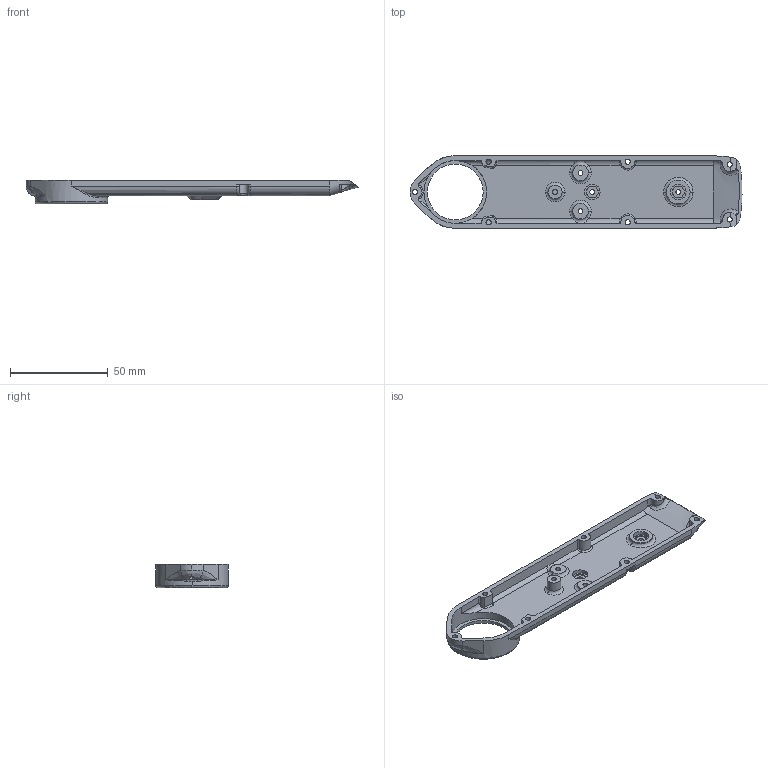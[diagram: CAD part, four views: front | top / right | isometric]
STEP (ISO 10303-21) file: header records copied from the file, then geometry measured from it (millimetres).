
FILE_DESCRIPTION (( 'STEP AP214' ), '1' );
FILE_NAME ('upper_leg_module_shell_cover.STEP', '2020-10-14T12:02:01', ( '' ), ( '' ), 'SwSTEP 2.0', 'SolidWorks 2017', '' );
FILE_SCHEMA (( 'AUTOMOTIVE_DESIGN' ));
Length unit declared in the file: millimetre
Products named in the file (1): upper_leg_module_shell_cover
Bounding box: 169.4 x 37 x 12 mm (x, y, z)
Volume: 14596 mm3; surface area: 16659.2 mm2
Topology: 1 solids, 1 shells, 215 faces, 568 edges, 358 vertices
Faces by surface type: cylinder 96, plane 47, bspline 40, torus 26, cone 6
Entity records: 11287 total; most frequent: CARTESIAN_POINT 6193, ORIENTED_EDGE 1124, DIRECTION 986, EDGE_CURVE 562, AXIS2_PLACEMENT_3D 404, VERTEX_POINT 358, EDGE_LOOP 244, CIRCLE 228
